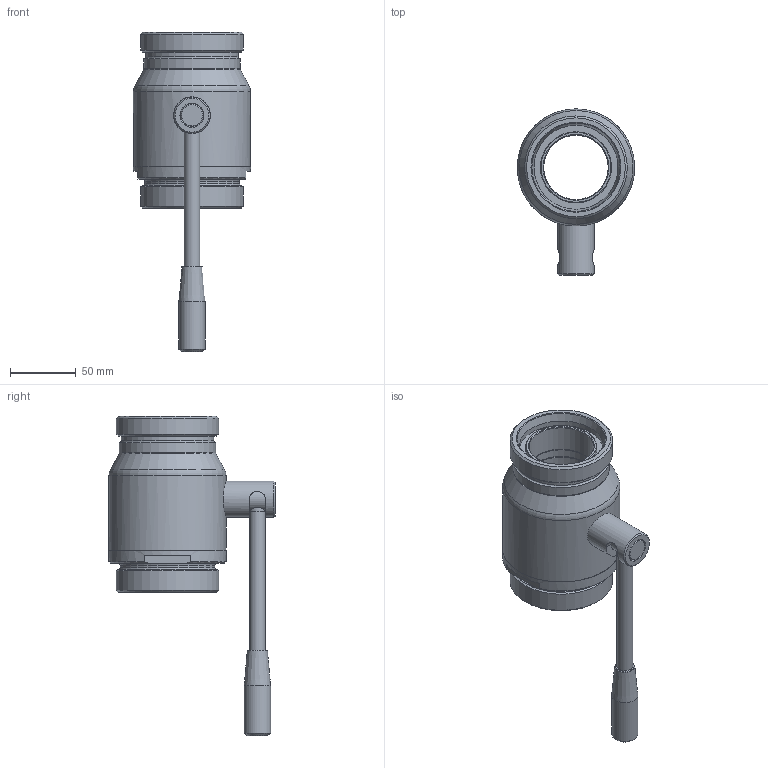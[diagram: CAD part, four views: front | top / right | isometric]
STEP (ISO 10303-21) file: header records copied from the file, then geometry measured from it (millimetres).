
FILE_DESCRIPTION(/* description */ ('Unknown'),/* implementation_level */ '2;1');
FILE_NAME(/* name */ '81SP-050',/* time_stamp */ '2020-04-02T12:26:51+02:00',/* author */ ('Unknown'),/* organization */ ('Unknown'),/* preprocessor_version */ 'ST-DEVELOPER v16.7',/* originating_system */ 'DEX',/* authorisation */ $);
FILE_SCHEMA (('AUTOMOTIVE_DESIGN {1 0 10303 214 3 1 1}'));
Length unit declared in the file: millimetre
Products named in the file (1): 81SP-050
Bounding box: 88.95 x 126.25 x 242.5 mm (x, y, z)
Volume: 437785.7 mm3; surface area: 127183.4 mm2
Topology: 1 solids, 5 shells, 161 faces, 356 edges, 227 vertices
Faces by surface type: cylinder 52, plane 50, cone 42, torus 14, sphere 3
Full cylindrical faces by diameter (mm): 10.106 x2, 12 x2, 12.1 x1, 13 x3, 17 x4, 17.2 x1, 17.5 x5, 20 x1, 22 x1, 22.2 x1, 23.2 x1, 27.7 x1, 28 x1, 49 x4, 49.5 x1, 54 x2, 62 x1, 62.4 x1, 63.8 x2, 66.9 x1, 67.5 x1, 70.5 x1, 72 x1, 73 x1, 78 x2, 80.9 x1, 82.776 x3, 85.8 x1, 88.9 x1, 89 x1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
Entity records: 4755 total; most frequent: CARTESIAN_POINT 668, DIRECTION 666, ORIENTED_EDGE 400, AXIS2_PLACEMENT_3D 321, FACE_BOUND 304, EDGE_LOOP 302, EDGE_CURVE 200, VERTEX_POINT 180
